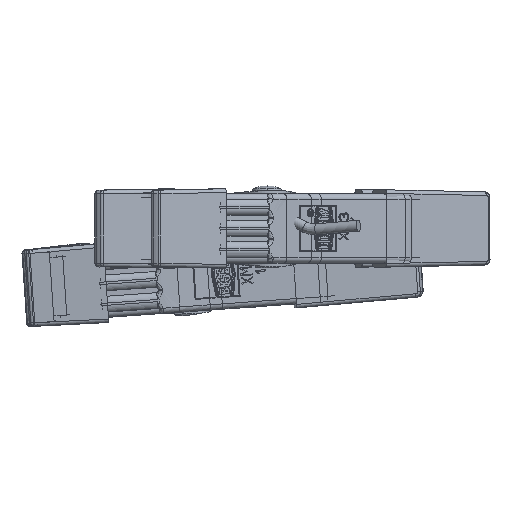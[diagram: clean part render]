
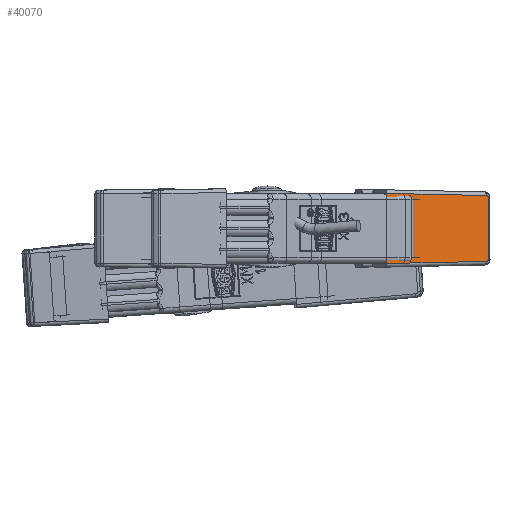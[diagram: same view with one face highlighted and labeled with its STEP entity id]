
A CAD part, front view. The second image highlights one B-rep face of the part: STEP entity #40070.
In plain terms, the highlighted planar face has unit normal (0.559, -0.829, 0) as drawn and (-0.259, 0.966, 0) by its records, which use the part's own axes.
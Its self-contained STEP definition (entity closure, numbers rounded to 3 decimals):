
#39120=CARTESIAN_POINT('',(17.281,22.525,
-9.594));
#39137=CARTESIAN_POINT('',(17.281,22.525,9.594));
#39380=DIRECTION('',(-0.966,-0.259,-0.017));
#39381=VECTOR('',#39380,32.901);
#39382=CARTESIAN_POINT('',(49.056,31.039,
-9.02));
#39383=LINE('',#39382,#39381);
#39387=CARTESIAN_POINT('',(49.679,31.206,
-8.515));
#39388=CARTESIAN_POINT('',(49.679,31.206,
-8.552));
#39389=CARTESIAN_POINT('',(49.67,31.203,
-8.623));
#39390=CARTESIAN_POINT('',(49.627,31.192,
-8.728));
#39391=CARTESIAN_POINT('',(49.556,31.173,
-8.823));
#39392=CARTESIAN_POINT('',(49.459,31.147,
-8.904));
#39393=CARTESIAN_POINT('',(49.34,31.115,
-8.968));
#39394=CARTESIAN_POINT('',(49.203,31.078,
-9.008));
#39395=CARTESIAN_POINT('',(49.106,31.052,
-9.019));
#39396=CARTESIAN_POINT('',(49.056,31.039,
-9.02));
#39401=DIRECTION('',(0.,0.,-1.));
#39402=VECTOR('',#39401,17.03);
#39403=CARTESIAN_POINT('',(49.679,31.206,8.515));
#39404=LINE('',#39403,#39402);
#39408=CARTESIAN_POINT('',(49.056,31.039,9.02));
#39409=CARTESIAN_POINT('',(49.106,31.052,9.019));
#39410=CARTESIAN_POINT('',(49.203,31.078,9.008));
#39411=CARTESIAN_POINT('',(49.34,31.115,8.968));
#39412=CARTESIAN_POINT('',(49.459,31.147,8.904));
#39413=CARTESIAN_POINT('',(49.556,31.173,8.823));
#39414=CARTESIAN_POINT('',(49.627,31.192,8.728));
#39415=CARTESIAN_POINT('',(49.67,31.203,8.623));
#39416=CARTESIAN_POINT('',(49.679,31.206,8.552));
#39417=CARTESIAN_POINT('',(49.679,31.206,8.515));
#39422=DIRECTION('',(0.966,0.259,-0.017));
#39423=VECTOR('',#39422,32.901);
#39424=CARTESIAN_POINT('',(17.281,22.525,9.594));
#39425=LINE('',#39424,#39423);
#39429=DIRECTION('',(0.,0.,1.));
#39430=VECTOR('',#39429,19.187);
#39431=CARTESIAN_POINT('',(17.281,22.525,
-9.594));
#39432=LINE('',#39431,#39430);
#39654=VERTEX_POINT('',#39120);
#39658=CARTESIAN_POINT('',(49.056,31.039,
-9.02));
#39659=VERTEX_POINT('',#39658);
#39660=VERTEX_POINT('',#39387);
#39662=CARTESIAN_POINT('',(49.679,31.206,8.515));
#39663=VERTEX_POINT('',#39662);
#39666=VERTEX_POINT('',#39408);
#39669=VERTEX_POINT('',#39137);
#40054=CARTESIAN_POINT('',(50.127,31.326,10.52));
#40055=DIRECTION('',(-0.259,0.966,0.));
#40056=DIRECTION('',(0.,0.,-1.));
#40057=AXIS2_PLACEMENT_3D('',#40054,#40055,#40056);
#40058=PLANE('',#40057);
#40059=ORIENTED_EDGE('',*,*,#39831,.F.);
#40061=ORIENTED_EDGE('',*,*,#40060,.F.);
#40063=ORIENTED_EDGE('',*,*,#40062,.F.);
#40065=ORIENTED_EDGE('',*,*,#40064,.F.);
#40066=ORIENTED_EDGE('',*,*,#40046,.F.);
#40067=ORIENTED_EDGE('',*,*,#39728,.F.);
#40068=EDGE_LOOP('',(#40059,#40061,#40063,#40065,#40066,#40067));
#40069=FACE_OUTER_BOUND('',#40068,.F.);
#39397=B_SPLINE_CURVE_WITH_KNOTS('',3,(#39387,#39388,#39389,#39390,#39391,
#39392,#39393,#39394,#39395,#39396),.UNSPECIFIED.,.F.,.F.,(4,1,1,1,1,1,1,4),(
0.,0.143,0.286,0.429,0.571,
0.714,0.857,1.),.UNSPECIFIED.);
#39418=B_SPLINE_CURVE_WITH_KNOTS('',3,(#39408,#39409,#39410,#39411,#39412,
#39413,#39414,#39415,#39416,#39417),.UNSPECIFIED.,.F.,.F.,(4,1,1,1,1,1,1,4),(
0.,0.143,0.286,0.429,0.571,
0.714,0.857,1.),.UNSPECIFIED.);
#39728=EDGE_CURVE('',#39654,#39669,#39432,.T.);
#39831=EDGE_CURVE('',#39659,#39654,#39383,.T.);
#40046=EDGE_CURVE('',#39669,#39666,#39425,.T.);
#40060=EDGE_CURVE('',#39660,#39659,#39397,.T.);
#40062=EDGE_CURVE('',#39663,#39660,#39404,.T.);
#40064=EDGE_CURVE('',#39666,#39663,#39418,.T.);
#40070=ADVANCED_FACE('',(#40069),#40058,.T.);
